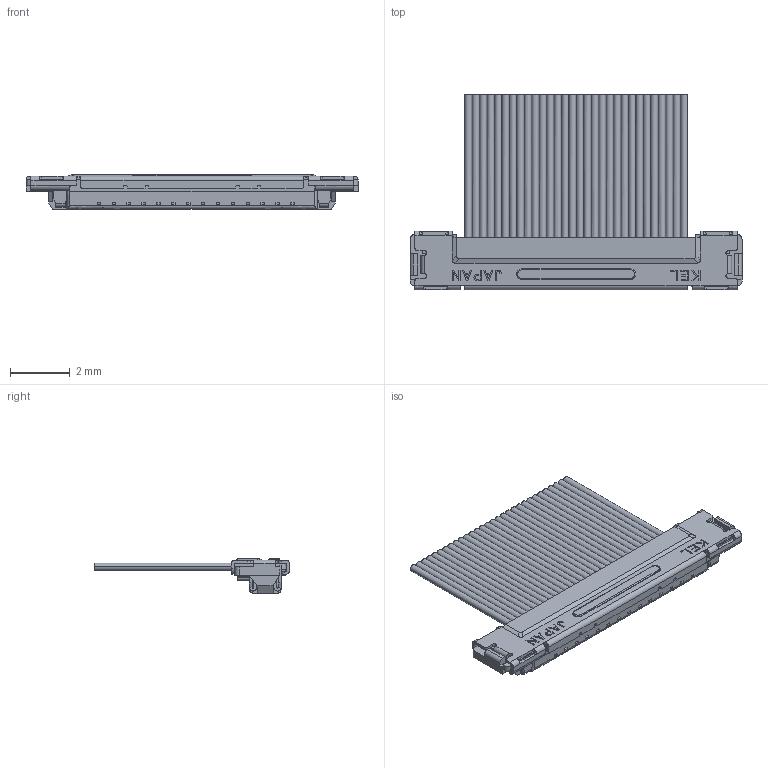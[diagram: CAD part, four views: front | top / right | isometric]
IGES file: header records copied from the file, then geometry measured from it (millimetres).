
Start section: Elysium IGES Interface
Global section: file name: C:\Users\1088\Desktop\XSLS20-xx\XSLS20-30_IG.igs; native system: Creo Elements/Direct Modeling 19.0F  14-Feb-2017; preprocessor: Creo Element/Direct IGES_3D V2.2; author: Unknown; organization: Unknown; date: 20170807.111016; units: millimetre
Bounding box: 11.15 x 6.57 x 1.17 mm (x, y, z)
Volume: 14.5 mm3; surface area: 342.2 mm2
Topology: 1 solids, 1 shells, 834 faces, 2211 edges, 1446 vertices
Faces by surface type: bspline 834
